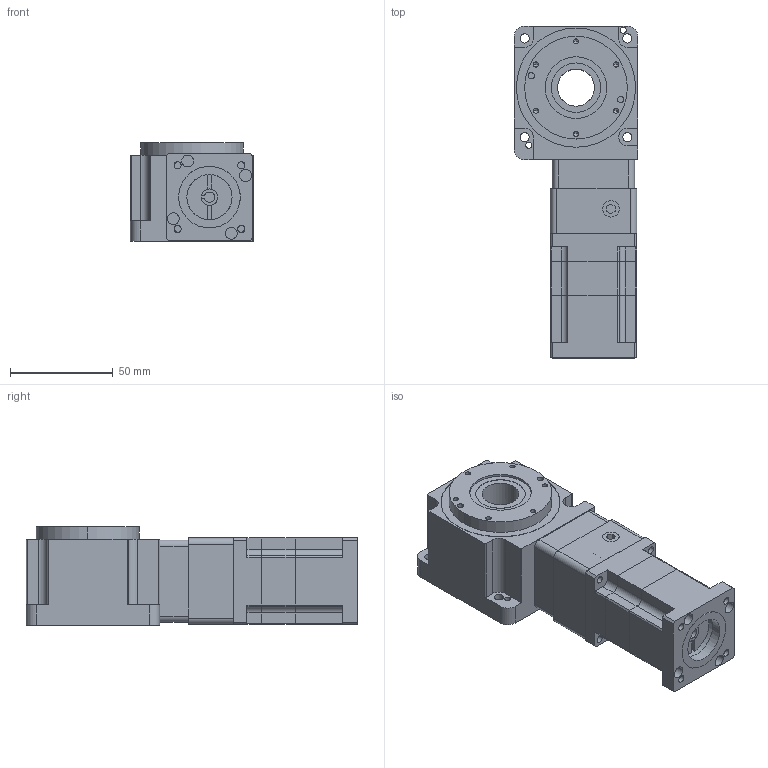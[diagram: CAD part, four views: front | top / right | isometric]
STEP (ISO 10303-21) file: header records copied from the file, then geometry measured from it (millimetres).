
FILE_DESCRIPTION (( 'STEP AP203' ), '1' );
FILE_NAME ('HYP060-30-PLF040-L1-B1减速机60.5(配42步进尺寸)组装体.STEP', '2024-07-24T03:59:40', ( 'Windows User' ), ( 'P R C' ), 'SwSTEP 2.0', 'SolidWorks 2016', '' );
FILE_SCHEMA (( 'CONFIG_CONTROL_DESIGN' ));
Length unit declared in the file: millimetre
Products named in the file (4): PLF42-L1-10粣(5-21-22-1.6-4-M3-31-31); HYP060-30-PLF040-L1-B1减速机60.5(配42步进尺寸)组装体; HYP60-30-M2（8-30-46-M4）_1; HYP60-5-10-MT(配减速机法兰)（8-35-50-M3）
Assembly tree (3 placements, depth 2):
  HYP060-30-PLF040-L1-B1减速机60.5(配42步进尺寸)组装体
    HYP60-30-M2（8-30-46-M4）_1
    HYP60-5-10-MT(配减速机法兰)（8-35-50-M3）
    PLF42-L1-10粣(5-21-22-1.6-4-M3-31-31)
Bounding box: 60 x 161.5 x 48 mm (x, y, z)
Volume: 277974.4 mm3; surface area: 66457.1 mm2
Topology: 7 solids, 8 shells, 538 faces, 1384 edges, 897 vertices
Faces by surface type: cylinder 270, plane 230, cone 38
Entity records: 16890 total; most frequent: DIRECTION 3012, CARTESIAN_POINT 2904, ORIENTED_EDGE 2708, EDGE_CURVE 1354, AXIS2_PLACEMENT_3D 1121, VERTEX_POINT 897, VECTOR 770, LINE 770
